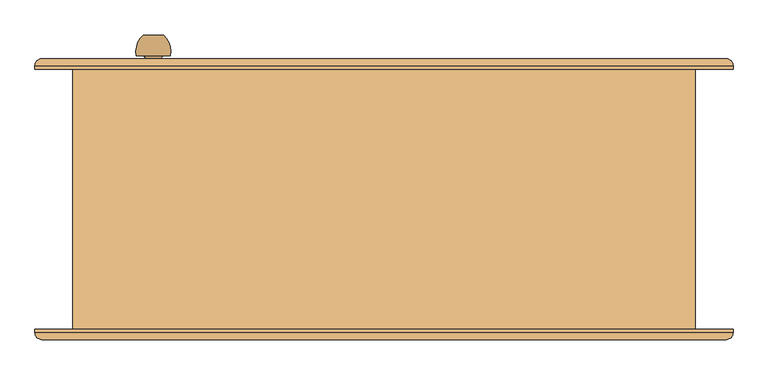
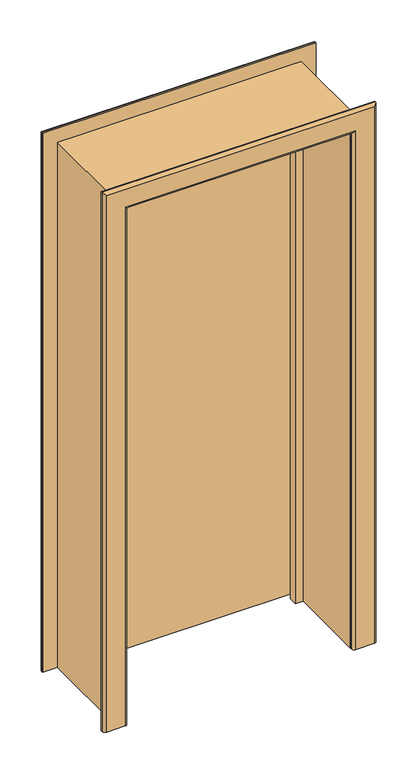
"""IFC4 building model written with IfcOpenShell, lengths in millimetres: door geometry, Внутренняя дверь 1-Навесная - 6629-88 : ДГ 21-9  ГОСТ 6629-88."""

from ifc_helpers import new_model, si_unit, point, frame, origin, place, context, project, spatial, polyline, circle_curve, ellipse_curve, trimmed, outline, extrude, faceted_brep, source, transform, mapped, element, save
from ifc_brep_helpers import plane_surface, cylinder_surface, revolved_surface, advanced_brep


def door_ebb03b69(model_context):
    return source(origin(), model_context, "Body", "SolidModel", [
        advanced_brep(
        [(-322.0, 240.0, 1100.0), (-337.0, 240.0, 1100.0), (-352.0, 240.0, 1100.0), (-362.0, 210.0, 1100.0), (-312.0, 210.0, 1100.0), (-355.0, 210.0, 1100.0), (-319.0, 210.0, 1100.0), (-347.0, 202.0, 1100.0), (-327.0, 202.0, 1100.0), (-347.0, 196.0, 1100.0), (-327.0, 196.0, 1100.0), (-367.0, 196.0, 1100.0), (-307.0, 196.0, 1100.0), (-367.0, 190.0, 1100.0), (-307.0, 190.0, 1100.0)],
        [
            (0, 1),
            (1, 2),
            (2, 0, circle_curve(frame((-337.0, 240.0, 1100.0), z_axis=(0.0, 1.0, 0.0), x_axis=(-1.0, 0.0, 0.0)), 15.0)),
            (0, 2, circle_curve(frame((-337.0, 240.0, 1100.0), z_axis=(0.0, 1.0, 0.0), x_axis=(-1.0, 0.0, 0.0)), 15.0)),
            (2, 3, circle_curve(frame((-327.3773735, 215.1257912, 1100.0), z_axis=(0.0, 0.0, 1.0), x_axis=(1.0, 0.0, 0.0)), 35.0)),
            (3, 4, circle_curve(frame((-337.0, 210.0, 1100.0), z_axis=(0.0, 1.0, 0.0), x_axis=(-1.0, 0.0, 0.0)), 25.0)),
            (4, 0, circle_curve(frame((-346.6226265, 215.1257912, 1100.0), z_axis=(0.0, 0.0, 1.0), x_axis=(-1.0, 0.0, 0.0)), 35.0)),
            (4, 3, circle_curve(frame((-337.0, 210.0, 1100.0), z_axis=(0.0, 1.0, 0.0), x_axis=(-1.0, 0.0, 0.0)), 25.0)),
            (3, 5),
            (5, 6, circle_curve(frame((-337.0, 210.0, 1100.0), z_axis=(0.0, 1.0, 0.0), x_axis=(-1.0, 0.0, 0.0)), 18.0)),
            (6, 4),
            (6, 5, circle_curve(frame((-337.0, 210.0, 1100.0), z_axis=(0.0, 1.0, 0.0), x_axis=(-1.0, 0.0, 0.0)), 18.0)),
            (5, 7, circle_curve(frame((-355.0, 202.0, 1100.0), z_axis=(0.0, 0.0, -1.0), x_axis=(1.0, 0.0, 0.0)), 8.0)),
            (7, 8, circle_curve(frame((-337.0, 202.0, 1100.0), z_axis=(0.0, 1.0, 0.0), x_axis=(-1.0, 0.0, 0.0)), 10.0)),
            (8, 6, circle_curve(frame((-319.0, 202.0, 1100.0), z_axis=(0.0, 0.0, -1.0), x_axis=(-1.0, 0.0, 0.0)), 8.0)),
            (8, 7, circle_curve(frame((-337.0, 202.0, 1100.0), z_axis=(0.0, 1.0, 0.0), x_axis=(-1.0, 0.0, 0.0)), 10.0)),
            (7, 9),
            (9, 10, circle_curve(frame((-337.0, 196.0, 1100.0), z_axis=(0.0, 1.0, 0.0), x_axis=(-1.0, 0.0, 0.0)), 10.0)),
            (10, 8),
            (10, 9, circle_curve(frame((-337.0, 196.0, 1100.0), z_axis=(0.0, 1.0, 0.0), x_axis=(-1.0, 0.0, 0.0)), 10.0)),
            (11, 12, circle_curve(frame((-337.0, 196.0, 1100.0), z_axis=(0.0, 1.0, 0.0), x_axis=(1.0, 0.0, 0.0)), 30.0)),
            (12, 11, circle_curve(frame((-337.0, 196.0, 1100.0), z_axis=(0.0, 1.0, 0.0), x_axis=(1.0, 0.0, 0.0)), 30.0)),
            (13, 14, circle_curve(frame((-337.0, 190.0, 1100.0), z_axis=(0.0, -1.0, 0.0), x_axis=(1.0, 0.0, 0.0)), 30.0)),
            (14, 13, circle_curve(frame((-337.0, 190.0, 1100.0), z_axis=(0.0, -1.0, 0.0), x_axis=(1.0, 0.0, 0.0)), 30.0)),
            (12, 14),
            (13, 11),
        ],
        [
            plane_surface(frame((-337.0, 240.0, 1100.0), z_axis=(0.0, 1.0, 0.0), x_axis=(-1.0, 0.0, 0.0))),
            revolved_surface(trimmed(ellipse_curve(frame((-327.3773735, 215.1257912, 1100.0), z_axis=(0.0, 0.0, 1.0), x_axis=(1.0, 0.0, 0.0)), 35.0, 35.0), [point((-352.0, 240.0, 1100.0))], [point((-362.0, 210.0, 1100.0))], True, "CARTESIAN"), (-337.0, 270.0, 1100.0), (0.0, -1.0, 0.0)),
            plane_surface(frame((-337.0, 210.0, 1100.0), z_axis=(0.0, -1.0, 0.0), x_axis=(-1.0, 0.0, 0.0))),
            revolved_surface(trimmed(ellipse_curve(frame((-355.0, 202.0, 1100.0), z_axis=(0.0, 0.0, -1.0), x_axis=(1.0, 0.0, 0.0)), 8.0, 8.0), [point((-355.0, 210.0, 1100.0))], [point((-347.0, 202.0, 1100.0))], True, "CARTESIAN"), (-337.0, 270.0, 1100.0), (0.0, -1.0, 0.0)),
            cylinder_surface(frame((-337.0, 270.0, 1100.0), z_axis=(0.0, -1.0, 0.0), x_axis=(-1.0, 0.0, 0.0)), 10.0),
            plane_surface(frame((-307.0, 196.0, 1100.0), z_axis=(0.0, 1.0, 0.0), x_axis=(0.0, 0.0, 1.0))),
            plane_surface(frame((-307.0, 190.0, 1100.0), z_axis=(0.0, -1.0, 0.0), x_axis=(0.0, 0.0, -1.0))),
            cylinder_surface(frame((-337.0, 190.0, 1100.0), z_axis=(0.0, 1.0, 0.0), x_axis=(1.0, 0.0, 0.0)), 30.0),
        ],
        [
            (0, [[1, 2, 3]]),
            (0, [[-1, 4, -2]]),
            (1, [[5, 6, 7, -3]]),
            (1, [[-7, 8, -5, -4]]),
            (2, [[9, 10, 11, -6]]),
            (2, [[-11, 12, -9, -8]]),
            (3, [[13, 14, 15, -10]]),
            (3, [[-15, 16, -13, -12]]),
            (4, [[17, 18, 19, -14]]),
            (4, [[-19, 20, -17, -16]]),
            (5, [[21, 22], [-20, -18]]),
            (6, [[23, 24]]),
            (7, [[25, -23, 26, -22]]),
            (7, [[-26, -24, -25, -21]]),
        ],
    ),
        advanced_brep(
        [(-352.0, 103.0, 1100.0), (-337.0, 103.0, 1100.0), (-322.0, 103.0, 1100.0), (-312.0, 133.0, 1100.0), (-362.0, 133.0, 1100.0), (-319.0, 133.0, 1100.0), (-355.0, 133.0, 1100.0), (-327.0, 141.0, 1100.0), (-347.0, 141.0, 1100.0), (-327.0, 147.0, 1100.0), (-347.0, 147.0, 1100.0), (-307.0, 147.0, 1100.0), (-367.0, 147.0, 1100.0), (-307.0, 153.0, 1100.0), (-367.0, 153.0, 1100.0)],
        [
            (0, 1),
            (1, 2),
            (2, 0, circle_curve(frame((-337.0, 103.0, 1100.0), z_axis=(0.0, -1.0, 0.0), x_axis=(1.0, 0.0, 0.0)), 15.0)),
            (0, 2, circle_curve(frame((-337.0, 103.0, 1100.0), z_axis=(0.0, -1.0, 0.0), x_axis=(1.0, 0.0, 0.0)), 15.0)),
            (2, 3, circle_curve(frame((-346.6226265, 127.8742088, 1100.0), z_axis=(0.0, 0.0, 1.0), x_axis=(-1.0, 0.0, 0.0)), 35.0)),
            (3, 4, circle_curve(frame((-337.0, 133.0, 1100.0), z_axis=(0.0, -1.0, 0.0), x_axis=(1.0, 0.0, 0.0)), 25.0)),
            (4, 0, circle_curve(frame((-327.3773735, 127.8742088, 1100.0), z_axis=(0.0, 0.0, 1.0), x_axis=(1.0, 0.0, 0.0)), 35.0)),
            (4, 3, circle_curve(frame((-337.0, 133.0, 1100.0), z_axis=(0.0, -1.0, 0.0), x_axis=(1.0, 0.0, 0.0)), 25.0)),
            (3, 5),
            (5, 6, circle_curve(frame((-337.0, 133.0, 1100.0), z_axis=(0.0, -1.0, 0.0), x_axis=(1.0, 0.0, 0.0)), 18.0)),
            (6, 4),
            (6, 5, circle_curve(frame((-337.0, 133.0, 1100.0), z_axis=(0.0, -1.0, 0.0), x_axis=(1.0, 0.0, 0.0)), 18.0)),
            (5, 7, circle_curve(frame((-319.0, 141.0, 1100.0), z_axis=(0.0, 0.0, -1.0), x_axis=(-1.0, 0.0, 0.0)), 8.0)),
            (7, 8, circle_curve(frame((-337.0, 141.0, 1100.0), z_axis=(0.0, -1.0, 0.0), x_axis=(1.0, 0.0, 0.0)), 10.0)),
            (8, 6, circle_curve(frame((-355.0, 141.0, 1100.0), z_axis=(0.0, 0.0, -1.0), x_axis=(1.0, 0.0, 0.0)), 8.0)),
            (8, 7, circle_curve(frame((-337.0, 141.0, 1100.0), z_axis=(0.0, -1.0, 0.0), x_axis=(1.0, 0.0, 0.0)), 10.0)),
            (7, 9),
            (9, 10, circle_curve(frame((-337.0, 147.0, 1100.0), z_axis=(0.0, -1.0, 0.0), x_axis=(1.0, 0.0, 0.0)), 10.0)),
            (10, 8),
            (10, 9, circle_curve(frame((-337.0, 147.0, 1100.0), z_axis=(0.0, -1.0, 0.0), x_axis=(1.0, 0.0, 0.0)), 10.0)),
            (11, 12, circle_curve(frame((-337.0, 147.0, 1100.0), z_axis=(0.0, -1.0, 0.0), x_axis=(-1.0, 0.0, 0.0)), 30.0)),
            (12, 11, circle_curve(frame((-337.0, 147.0, 1100.0), z_axis=(0.0, -1.0, 0.0), x_axis=(-1.0, 0.0, 0.0)), 30.0)),
            (13, 14, circle_curve(frame((-337.0, 153.0, 1100.0), z_axis=(0.0, 1.0, 0.0), x_axis=(-1.0, 0.0, 0.0)), 30.0)),
            (14, 13, circle_curve(frame((-337.0, 153.0, 1100.0), z_axis=(0.0, 1.0, 0.0), x_axis=(-1.0, 0.0, 0.0)), 30.0)),
            (12, 14),
            (13, 11),
        ],
        [
            plane_surface(frame((-337.0, 103.0, 1100.0), z_axis=(0.0, -1.0, 0.0), x_axis=(1.0, 0.0, 0.0))),
            revolved_surface(trimmed(ellipse_curve(frame((-346.6226265, 127.8742088, 1100.0), z_axis=(0.0, 0.0, 1.0), x_axis=(-1.0, 0.0, 0.0)), 35.0, 35.0), [point((-322.0, 103.0, 1100.0))], [point((-312.0, 133.0, 1100.0))], True, "CARTESIAN"), (-337.0, 73.0, 1100.0), (0.0, 1.0, 0.0)),
            plane_surface(frame((-337.0, 133.0, 1100.0), z_axis=(0.0, 1.0, 0.0), x_axis=(1.0, 0.0, 0.0))),
            revolved_surface(trimmed(ellipse_curve(frame((-319.0, 141.0, 1100.0), z_axis=(0.0, 0.0, -1.0), x_axis=(-1.0, 0.0, 0.0)), 8.0, 8.0), [point((-319.0, 133.0, 1100.0))], [point((-327.0, 141.0, 1100.0))], True, "CARTESIAN"), (-337.0, 73.0, 1100.0), (0.0, 1.0, 0.0)),
            cylinder_surface(frame((-337.0, 73.0, 1100.0), z_axis=(0.0, 1.0, 0.0), x_axis=(1.0, 0.0, 0.0)), 10.0),
            plane_surface(frame((-367.0, 147.0, 1100.0), z_axis=(0.0, -1.0, 0.0), x_axis=(0.0, 0.0, 1.0))),
            plane_surface(frame((-367.0, 153.0, 1100.0), z_axis=(0.0, 1.0, 0.0), x_axis=(0.0, 0.0, -1.0))),
            cylinder_surface(frame((-337.0, 153.0, 1100.0), z_axis=(0.0, -1.0, 0.0), x_axis=(-1.0, 0.0, 0.0)), 30.0),
        ],
        [
            (0, [[1, 2, 3]]),
            (0, [[-1, 4, -2]]),
            (1, [[5, 6, 7, -3]]),
            (1, [[-7, 8, -5, -4]]),
            (2, [[9, 10, 11, -6]]),
            (2, [[-11, 12, -9, -8]]),
            (3, [[13, 14, 15, -10]]),
            (3, [[-15, 16, -13, -12]]),
            (4, [[17, 18, 19, -14]]),
            (4, [[-19, 20, -17, -16]]),
            (5, [[21, 22], [-20, -18]]),
            (6, [[23, 24]]),
            (7, [[25, -23, 26, -22]]),
            (7, [[-26, -24, -25, -21]]),
        ],
    ),
        extrude(outline(polyline([(0.0, 435.0), (2050.0, 435.0), (2050.0, -435.0), (0.0, -435.0), (0.0, -420.0), (2035.0, -420.0), (2035.0, 420.0), (0.0, 420.0), (0.0, 435.0)])), frame((0.0, -190.0, 0.0), z_axis=(0.0, 1.0, 0.0), x_axis=(0.0, 0.0, 1.0)), (0.0, 0.0, 1.0), 306.0),
        advanced_brep(
        [(-510.0, 190.0, 0.0), (-510.0, 195.0, 0.0), (-500.0, 205.0, 0.0), (-430.0, 205.0, 0.0), (-420.0, 195.0, 0.0), (-420.0, 190.0, 0.0), (-420.0, 190.0, 2035.0), (420.0, 190.0, 2035.0), (420.0, 190.0, 0.0), (510.0, 190.0, 0.0), (510.0, 190.0, 2125.0), (-510.0, 190.0, 2125.0), (-420.0, 195.0, 2035.0), (-430.0, 205.0, 2045.0), (-500.0, 205.0, 2115.0), (500.0, 205.0, 2115.0), (500.0, 205.0, 0.0), (430.0, 205.0, 0.0), (430.0, 205.0, 2045.0), (-510.0, 195.0, 2125.0), (510.0, 195.0, 0.0), (510.0, 195.0, 2125.0), (420.0, 195.0, 0.0), (420.0, 195.0, 2035.0)],
        [
            (0, 1),
            (1, 2, circle_curve(frame((-500.0, 195.0, 0.0), z_axis=(0.0, 0.0, -1.0), x_axis=(-1.0, 0.0, 0.0)), 10.0)),
            (2, 3),
            (3, 4, circle_curve(frame((-430.0, 195.0, 0.0), z_axis=(0.0, 0.0, -1.0), x_axis=(-1.0, 0.0, 0.0)), 10.0)),
            (4, 5),
            (5, 0),
            (5, 6),
            (6, 7),
            (7, 8),
            (8, 9),
            (9, 10),
            (10, 11),
            (11, 0),
            (4, 12),
            (12, 6),
            (3, 13),
            (13, 12, ellipse_curve(frame((-430.0, 195.0, 2045.0), z_axis=(-0.7071067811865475, 0.0, -0.7071067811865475), x_axis=(0.7071067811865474, 0.0, -0.7071067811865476)), 14.1421356, 10.0)),
            (2, 14),
            (14, 15),
            (15, 16),
            (16, 17),
            (17, 18),
            (18, 13),
            (1, 19),
            (19, 14, ellipse_curve(frame((-500.0, 195.0, 2115.0), z_axis=(-0.7071067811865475, 0.0, -0.7071067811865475), x_axis=(0.7071067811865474, 0.0, -0.7071067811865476)), 14.1421356, 10.0)),
            (11, 19),
            (9, 20),
            (20, 21),
            (21, 10),
            (8, 22),
            (22, 17, circle_curve(frame((430.0, 195.0, 0.0), z_axis=(0.0, 0.0, -1.0), x_axis=(1.0, 0.0, 0.0)), 10.0)),
            (16, 20, circle_curve(frame((500.0, 195.0, 0.0), z_axis=(0.0, 0.0, -1.0), x_axis=(1.0, 0.0, 0.0)), 10.0)),
            (23, 22),
            (7, 23),
            (23, 18, ellipse_curve(frame((430.0, 195.0, 2045.0), z_axis=(0.7071067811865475, 0.0, -0.7071067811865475), x_axis=(0.7071067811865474, 0.0, 0.7071067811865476)), 14.1421356, 10.0)),
            (15, 21, ellipse_curve(frame((500.0, 195.0, 2115.0), z_axis=(0.7071067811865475, 0.0, -0.7071067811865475), x_axis=(0.7071067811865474, 0.0, 0.7071067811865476)), 14.1421356, 10.0)),
            (12, 23),
            (19, 21),
        ],
        [
            plane_surface(frame((-455.0, 190.0, 0.0), z_axis=(0.0, 0.0, -1.0), x_axis=(0.0, -1.0, 0.0))),
            plane_surface(frame((-510.0, 190.0, 0.0), z_axis=(0.0, -1.0, 0.0), x_axis=(0.0, 0.0, 1.0))),
            plane_surface(frame((-420.0, 190.0, 0.0), z_axis=(1.0, 0.0, 0.0), x_axis=(0.0, 0.0, 1.0))),
            cylinder_surface(frame((-430.0, 195.0, 0.0), z_axis=(0.0, 0.0, -1.0), x_axis=(-1.0, 0.0, 0.0)), 10.0),
            plane_surface(frame((-430.0, 205.0, 0.0), z_axis=(0.0, 1.0, 0.0), x_axis=(0.0, 0.0, 1.0))),
            cylinder_surface(frame((-500.0, 195.0, 0.0), z_axis=(0.0, 0.0, -1.0), x_axis=(-1.0, 0.0, 0.0)), 10.0),
            plane_surface(frame((-510.0, 195.0, 0.0), z_axis=(-1.0, 0.0, 0.0), x_axis=(0.0, 0.0, 1.0))),
            plane_surface(frame((510.0, 195.0, 2125.0), z_axis=(1.0, 0.0, 0.0), x_axis=(0.0, 0.0, -1.0))),
            plane_surface(frame((455.0, 190.0, 0.0), z_axis=(0.0, 0.0, -1.0), x_axis=(0.0, -1.0, 0.0))),
            plane_surface(frame((420.0, 190.0, 2035.0), z_axis=(-1.0, 0.0, 0.0), x_axis=(0.0, 0.0, -1.0))),
            cylinder_surface(frame((430.0, 195.0, 2070.0), z_axis=(0.0, 0.0, 1.0), x_axis=(1.0, 0.0, 0.0)), 10.0),
            cylinder_surface(frame((500.0, 195.0, 2070.0), z_axis=(0.0, 0.0, 1.0), x_axis=(1.0, 0.0, 0.0)), 10.0),
            plane_surface(frame((-420.0, 190.0, 2035.0), z_axis=(0.0, 0.0, -1.0), x_axis=(1.0, 0.0, 0.0))),
            cylinder_surface(frame((-455.0, 195.0, 2045.0), z_axis=(-1.0, 0.0, 0.0), x_axis=(0.0, 0.0, 1.0)), 10.0),
            cylinder_surface(frame((-455.0, 195.0, 2115.0), z_axis=(-1.0, 0.0, 0.0), x_axis=(0.0, 0.0, 1.0)), 10.0),
            plane_surface(frame((-510.0, 195.0, 2125.0), z_axis=(0.0, 0.0, 1.0), x_axis=(1.0, 0.0, 0.0))),
        ],
        [
            (0, [[1, 2, 3, 4, 5, 6]]),
            (1, [[7, 8, 9, 10, 11, 12, 13, -6]]),
            (2, [[14, 15, -7, -5]]),
            (3, [[16, 17, -14, -4]]),
            (4, [[18, 19, 20, 21, 22, 23, -16, -3]]),
            (5, [[24, 25, -18, -2]]),
            (6, [[-13, 26, -24, -1]]),
            (7, [[-11, 27, 28, 29]]),
            (8, [[-10, 30, 31, -21, 32, -27]]),
            (9, [[33, -30, -9, 34]]),
            (10, [[-22, -31, -33, 35]]),
            (11, [[-28, -32, -20, 36]]),
            (12, [[37, -34, -8, -15]]),
            (13, [[-23, -35, -37, -17]]),
            (14, [[38, -36, -19, -25]]),
            (15, [[-12, -29, -38, -26]]),
        ],
    ),
        advanced_brep(
        [(510.0, -190.0, 0.0), (510.0, -195.0, 0.0), (500.0, -205.0, 0.0), (430.0, -205.0, 0.0), (420.0, -195.0, 0.0), (420.0, -190.0, 0.0), (420.0, -190.0, 2035.0), (-420.0, -190.0, 2035.0), (-420.0, -190.0, 0.0), (-510.0, -190.0, 0.0), (-510.0, -190.0, 2125.0), (510.0, -190.0, 2125.0), (420.0, -195.0, 2035.0), (430.0, -205.0, 2045.0), (500.0, -205.0, 2115.0), (-500.0, -205.0, 2115.0), (-500.0, -205.0, 0.0), (-430.0, -205.0, 0.0), (-430.0, -205.0, 2045.0), (510.0, -195.0, 2125.0), (-510.0, -195.0, 0.0), (-510.0, -195.0, 2125.0), (-420.0, -195.0, 0.0), (-420.0, -195.0, 2035.0)],
        [
            (0, 1),
            (1, 2, circle_curve(frame((500.0, -195.0, 0.0), z_axis=(0.0, 0.0, -1.0), x_axis=(1.0, 0.0, 0.0)), 10.0)),
            (2, 3),
            (3, 4, circle_curve(frame((430.0, -195.0, 0.0), z_axis=(0.0, 0.0, -1.0), x_axis=(1.0, 0.0, 0.0)), 10.0)),
            (4, 5),
            (5, 0),
            (5, 6),
            (6, 7),
            (7, 8),
            (8, 9),
            (9, 10),
            (10, 11),
            (11, 0),
            (4, 12),
            (12, 6),
            (3, 13),
            (13, 12, ellipse_curve(frame((430.0, -195.0, 2045.0), z_axis=(0.7071067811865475, 0.0, -0.7071067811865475), x_axis=(-0.7071067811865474, 0.0, -0.7071067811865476)), 14.1421356, 10.0)),
            (2, 14),
            (14, 15),
            (15, 16),
            (16, 17),
            (17, 18),
            (18, 13),
            (1, 19),
            (19, 14, ellipse_curve(frame((500.0, -195.0, 2115.0), z_axis=(0.7071067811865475, 0.0, -0.7071067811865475), x_axis=(-0.7071067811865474, 0.0, -0.7071067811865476)), 14.1421356, 10.0)),
            (11, 19),
            (9, 20),
            (20, 21),
            (21, 10),
            (8, 22),
            (22, 17, circle_curve(frame((-430.0, -195.0, 0.0), z_axis=(0.0, 0.0, -1.0), x_axis=(-1.0, 0.0, 0.0)), 10.0)),
            (16, 20, circle_curve(frame((-500.0, -195.0, 0.0), z_axis=(0.0, 0.0, -1.0), x_axis=(-1.0, 0.0, 0.0)), 10.0)),
            (23, 22),
            (7, 23),
            (23, 18, ellipse_curve(frame((-430.0, -195.0, 2045.0), z_axis=(-0.7071067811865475, 0.0, -0.7071067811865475), x_axis=(-0.7071067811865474, 0.0, 0.7071067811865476)), 14.1421356, 10.0)),
            (15, 21, ellipse_curve(frame((-500.0, -195.0, 2115.0), z_axis=(-0.7071067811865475, 0.0, -0.7071067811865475), x_axis=(-0.7071067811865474, 0.0, 0.7071067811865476)), 14.1421356, 10.0)),
            (12, 23),
            (19, 21),
        ],
        [
            plane_surface(frame((455.0, -190.0, 0.0), z_axis=(0.0, 0.0, -1.0), x_axis=(0.0, 1.0, 0.0))),
            plane_surface(frame((510.0, -190.0, 0.0), z_axis=(0.0, 1.0, 0.0), x_axis=(0.0, 0.0, 1.0))),
            plane_surface(frame((420.0, -190.0, 0.0), z_axis=(-1.0, 0.0, 0.0), x_axis=(0.0, 0.0, 1.0))),
            cylinder_surface(frame((430.0, -195.0, 0.0), z_axis=(0.0, 0.0, -1.0), x_axis=(1.0, 0.0, 0.0)), 10.0),
            plane_surface(frame((430.0, -205.0, 0.0), z_axis=(0.0, -1.0, 0.0), x_axis=(0.0, 0.0, 1.0))),
            cylinder_surface(frame((500.0, -195.0, 0.0), z_axis=(0.0, 0.0, -1.0), x_axis=(1.0, 0.0, 0.0)), 10.0),
            plane_surface(frame((510.0, -195.0, 0.0), z_axis=(1.0, 0.0, 0.0), x_axis=(0.0, 0.0, 1.0))),
            plane_surface(frame((-510.0, -195.0, 2125.0), z_axis=(-1.0, 0.0, 0.0), x_axis=(0.0, 0.0, -1.0))),
            plane_surface(frame((-455.0, -190.0, 0.0), z_axis=(0.0, 0.0, -1.0), x_axis=(0.0, 1.0, 0.0))),
            plane_surface(frame((-420.0, -190.0, 2035.0), z_axis=(1.0, 0.0, 0.0), x_axis=(0.0, 0.0, -1.0))),
            cylinder_surface(frame((-430.0, -195.0, 2070.0), z_axis=(0.0, 0.0, 1.0), x_axis=(-1.0, 0.0, 0.0)), 10.0),
            cylinder_surface(frame((-500.0, -195.0, 2070.0), z_axis=(0.0, 0.0, 1.0), x_axis=(-1.0, 0.0, 0.0)), 10.0),
            plane_surface(frame((420.0, -190.0, 2035.0), z_axis=(0.0, 0.0, -1.0), x_axis=(-1.0, 0.0, 0.0))),
            cylinder_surface(frame((455.0, -195.0, 2045.0), z_axis=(1.0, 0.0, 0.0), x_axis=(0.0, 0.0, 1.0)), 10.0),
            cylinder_surface(frame((455.0, -195.0, 2115.0), z_axis=(1.0, 0.0, 0.0), x_axis=(0.0, 0.0, 1.0)), 10.0),
            plane_surface(frame((510.0, -195.0, 2125.0), z_axis=(0.0, 0.0, 1.0), x_axis=(-1.0, 0.0, 0.0))),
        ],
        [
            (0, [[1, 2, 3, 4, 5, 6]]),
            (1, [[7, 8, 9, 10, 11, 12, 13, -6]]),
            (2, [[14, 15, -7, -5]]),
            (3, [[16, 17, -14, -4]]),
            (4, [[18, 19, 20, 21, 22, 23, -16, -3]]),
            (5, [[24, 25, -18, -2]]),
            (6, [[-13, 26, -24, -1]]),
            (7, [[-11, 27, 28, 29]]),
            (8, [[-10, 30, 31, -21, 32, -27]]),
            (9, [[33, -30, -9, 34]]),
            (10, [[-22, -31, -33, 35]]),
            (11, [[-28, -32, -20, 36]]),
            (12, [[37, -34, -8, -15]]),
            (13, [[-23, -35, -37, -17]]),
            (14, [[38, -36, -19, -25]]),
            (15, [[-12, -29, -38, -26]]),
        ],
    ),
        faceted_brep([(390.0, 116.0, 0.0), (390.0, 148.0, 0.0), (402.0, 148.0, 0.0), (402.0, 190.0, 0.0), (435.0, 190.0, 0.0), (435.0, 116.0, 0.0), (435.0, 116.0, 2050.0), (-435.0, 116.0, 2050.0), (-435.0, 116.0, 0.0), (-390.0, 116.0, 0.0), (-390.0, 116.0, 2005.0), (390.0, 116.0, 2005.0), (435.0, 190.0, 2050.0), (402.0, 190.0, 2017.0), (-402.0, 190.0, 2017.0), (-402.0, 190.0, 0.0), (-435.0, 190.0, 0.0), (-435.0, 190.0, 2050.0), (402.0, 148.0, 2017.0), (390.0, 148.0, 2005.0), (-390.0, 148.0, 2005.0), (-390.0, 148.0, 0.0), (-402.0, 148.0, 0.0), (-402.0, 148.0, 2017.0)], [[[0, 1, 2, 3, 4, 5]], [[5, 6, 7, 8, 9, 10, 11, 0]], [[4, 12, 6, 5]], [[3, 13, 14, 15, 16, 17, 12, 4]], [[2, 18, 13, 3]], [[1, 19, 20, 21, 22, 23, 18, 2]], [[0, 11, 19, 1]], [[10, 9, 21, 20]], [[9, 8, 16, 15, 22, 21]], [[17, 16, 8, 7]], [[23, 22, 15, 14]], [[12, 17, 7, 6]], [[18, 23, 14, 13]], [[11, 10, 20, 19]]]),
        extrude(outline(polyline([(0.0, 455.0), (2070.0, 455.0), (2070.0, -455.0), (0.0, -455.0), (0.0, -435.0), (2050.0, -435.0), (2050.0, 435.0), (0.0, 435.0), (0.0, 455.0)])), frame((0.0, -190.0, 0.0), z_axis=(0.0, 1.0, 0.0), x_axis=(0.0, 0.0, 1.0)), (0.0, 0.0, 1.0), 380.0),
        extrude(outline(polyline([(397.0, 153.0), (-397.0, 153.0), (-397.0, 190.0), (397.0, 190.0), (397.0, 153.0)])), frame((0.0, 0.0, 15.0), z_axis=(0.0, 0.0, 1.0), x_axis=(1.0, 0.0, 0.0)), (0.0, 0.0, 1.0), 1997.0),
    ])


if __name__ == "__main__":
    model = new_model("IFC4")
    model_context = context("Model", 3, world=origin())
    ifc_project = project(units=[si_unit("LENGTHUNIT", "METRE", prefix="MILLI")], contexts=[model_context])
    site = spatial("IfcSite", under=ifc_project)
    building = spatial("IfcBuilding", under=site)
    placement = place(None, origin())
    door_shape = door_ebb03b69(model_context)
    element("IfcDoor", 1, ObjectType="Внутренняя дверь 1-Навесная - 6629-88 : ДГ 21-9  ГОСТ 6629-88", at=placement, inside=building, context=model_context, shape_type="MappedRepresentation", body=[
        mapped(door_shape, transform((0.0, 0.0, 0.0), x_axis=(1.0, 0.0, 0.0), y_axis=(0.0, 1.0, 0.0), z_axis=(0.0, 0.0, 1.0))),
    ])
    save(model, "model.ifc")
